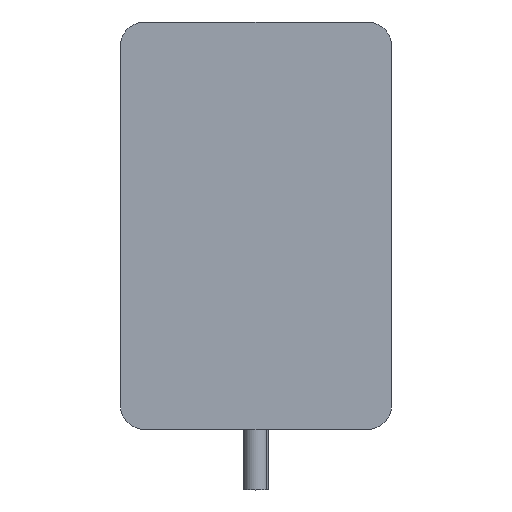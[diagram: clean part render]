
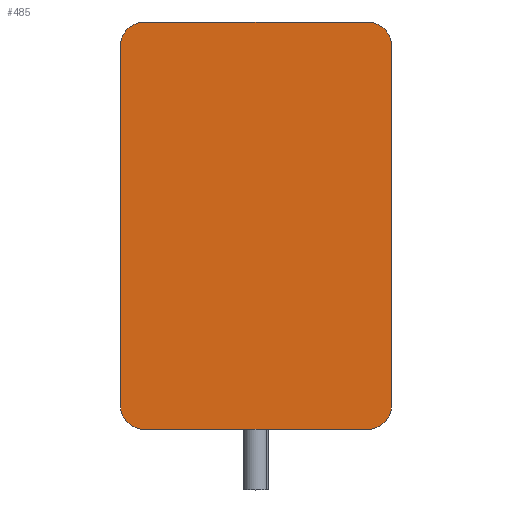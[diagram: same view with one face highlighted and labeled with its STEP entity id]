
A CAD part, top view. The second image highlights one B-rep face of the part: STEP entity #485.
In plain terms, the highlighted planar face has unit normal (0, 0, 1).
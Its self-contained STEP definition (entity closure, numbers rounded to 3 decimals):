
#11 = VERTEX_POINT ( 'NONE', #1814 ) ;
#13 = EDGE_CURVE ( 'NONE', #394, #1586, #874, .T. ) ;
#15 = CARTESIAN_POINT ( 'NONE',  ( -45., -82.5, 2. ) ) ;
#81 = CARTESIAN_POINT ( 'NONE',  ( 0., 24.5, 2. ) ) ;
#109 = DIRECTION ( 'NONE',  ( 0., 0., 1. ) ) ;
#114 = AXIS2_PLACEMENT_3D ( 'NONE', #81, #1150, #1705 ) ;
#124 = CARTESIAN_POINT ( 'NONE',  ( 55., -72.5, 2. ) ) ;
#126 = ORIENTED_EDGE ( 'NONE', *, *, #902, .T. ) ;
#128 = FACE_OUTER_BOUND ( 'NONE', #417, .T. ) ;
#183 = CARTESIAN_POINT ( 'NONE',  ( 45., -82.5, 2. ) ) ;
#186 = AXIS2_PLACEMENT_3D ( 'NONE', #1464, #109, #717 ) ;
#192 = CARTESIAN_POINT ( 'NONE',  ( 45., 82.5, 2. ) ) ;
#263 = ORIENTED_EDGE ( 'NONE', *, *, #440, .T. ) ;
#285 = DIRECTION ( 'NONE',  ( 1., 0., 0. ) ) ;
#383 = ORIENTED_EDGE ( 'NONE', *, *, #1759, .T. ) ;
#394 = VERTEX_POINT ( 'NONE', #183 ) ;
#417 = EDGE_LOOP ( 'NONE', ( #1918, #263, #674, #644, #1344, #698, #126, #383 ) ) ;
#433 = VECTOR ( 'NONE', #1197, 1000. ) ;
#440 = EDGE_CURVE ( 'NONE', #1169, #1005, #1024, .T. ) ;
#443 = CARTESIAN_POINT ( 'NONE',  ( -45., 72.5, 2. ) ) ;
#473 = EDGE_CURVE ( 'NONE', #915, #1169, #1857, .T. ) ;
#475 = VECTOR ( 'NONE', #1392, 1000. ) ;
#485 = ADVANCED_FACE ( 'NONE', ( #128 ), #1043, .T. ) ;
#496 = CARTESIAN_POINT ( 'NONE',  ( 55., 72.5, 2. ) ) ;
#583 = CIRCLE ( 'NONE', #1143, 10. ) ;
#644 = ORIENTED_EDGE ( 'NONE', *, *, #13, .T. ) ;
#647 = CARTESIAN_POINT ( 'NONE',  ( -55., 72.5, 2. ) ) ;
#649 = LINE ( 'NONE', #1245, #1173 ) ;
#670 = DIRECTION ( 'NONE',  ( 1., 0., 0. ) ) ;
#674 = ORIENTED_EDGE ( 'NONE', *, *, #1537, .T. ) ;
#698 = ORIENTED_EDGE ( 'NONE', *, *, #1807, .T. ) ;
#717 = DIRECTION ( 'NONE',  ( -1., 0., 0. ) ) ;
#874 = CIRCLE ( 'NONE', #1135, 10. ) ;
#902 = EDGE_CURVE ( 'NONE', #1014, #11, #932, .T. ) ;
#915 = VERTEX_POINT ( 'NONE', #647 ) ;
#932 = LINE ( 'NONE', #192, #475 ) ;
#1005 = VERTEX_POINT ( 'NONE', #15 ) ;
#1014 = VERTEX_POINT ( 'NONE', #1075 ) ;
#1024 = CIRCLE ( 'NONE', #186, 10. ) ;
#1043 = PLANE ( 'NONE',  #114 ) ;
#1074 = VECTOR ( 'NONE', #670, 1000. ) ;
#1075 = CARTESIAN_POINT ( 'NONE',  ( 45., 82.5, 2. ) ) ;
#1092 = CARTESIAN_POINT ( 'NONE',  ( 45., -72.5, 2. ) ) ;
#1135 = AXIS2_PLACEMENT_3D ( 'NONE', #1092, #1380, #1408 ) ;
#1143 = AXIS2_PLACEMENT_3D ( 'NONE', #443, #1624, #285 ) ;
#1148 = AXIS2_PLACEMENT_3D ( 'NONE', #1257, #1665, #1824 ) ;
#1150 = DIRECTION ( 'NONE',  ( 0., 0., 1. ) ) ;
#1169 = VERTEX_POINT ( 'NONE', #1800 ) ;
#1173 = VECTOR ( 'NONE', #1826, 1000. ) ;
#1197 = DIRECTION ( 'NONE',  ( 0., -1., 0. ) ) ;
#1245 = CARTESIAN_POINT ( 'NONE',  ( 55., -72.5, 2. ) ) ;
#1257 = CARTESIAN_POINT ( 'NONE',  ( 45., 72.5, 2. ) ) ;
#1263 = EDGE_CURVE ( 'NONE', #1586, #1358, #649, .T. ) ;
#1278 = CARTESIAN_POINT ( 'NONE',  ( 45., -82.5, 2. ) ) ;
#1344 = ORIENTED_EDGE ( 'NONE', *, *, #1263, .T. ) ;
#1358 = VERTEX_POINT ( 'NONE', #496 ) ;
#1380 = DIRECTION ( 'NONE',  ( 0., 0., 1. ) ) ;
#1392 = DIRECTION ( 'NONE',  ( -1., 0., 0. ) ) ;
#1408 = DIRECTION ( 'NONE',  ( 1., 0., 0. ) ) ;
#1435 = CARTESIAN_POINT ( 'NONE',  ( -55., -72.5, 2. ) ) ;
#1464 = CARTESIAN_POINT ( 'NONE',  ( -45., -72.5, 2. ) ) ;
#1537 = EDGE_CURVE ( 'NONE', #1005, #394, #1827, .T. ) ;
#1586 = VERTEX_POINT ( 'NONE', #124 ) ;
#1624 = DIRECTION ( 'NONE',  ( 0., 0., 1. ) ) ;
#1665 = DIRECTION ( 'NONE',  ( 0., 0., 1. ) ) ;
#1705 = DIRECTION ( 'NONE',  ( 1., 0., 0. ) ) ;
#1759 = EDGE_CURVE ( 'NONE', #11, #915, #583, .T. ) ;
#1800 = CARTESIAN_POINT ( 'NONE',  ( -55., -72.5, 2. ) ) ;
#1807 = EDGE_CURVE ( 'NONE', #1358, #1014, #1914, .T. ) ;
#1814 = CARTESIAN_POINT ( 'NONE',  ( -45., 82.5, 2. ) ) ;
#1824 = DIRECTION ( 'NONE',  ( 1., 0., 0. ) ) ;
#1826 = DIRECTION ( 'NONE',  ( 0., 1., 0. ) ) ;
#1827 = LINE ( 'NONE', #1278, #1074 ) ;
#1857 = LINE ( 'NONE', #1435, #433 ) ;
#1914 = CIRCLE ( 'NONE', #1148, 10. ) ;
#1918 = ORIENTED_EDGE ( 'NONE', *, *, #473, .T. ) ;
